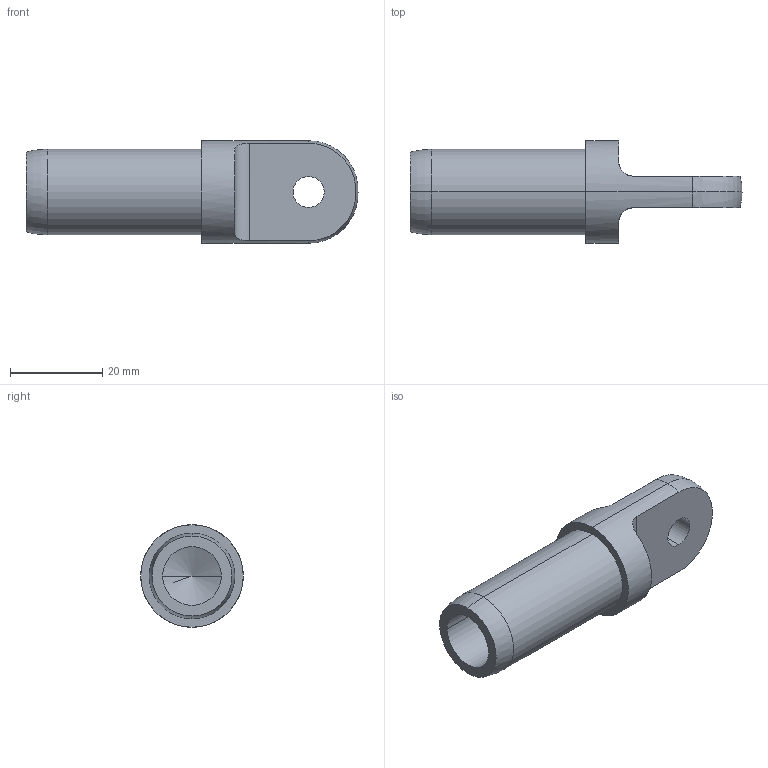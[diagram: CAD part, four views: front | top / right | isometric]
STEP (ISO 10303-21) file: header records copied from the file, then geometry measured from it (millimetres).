
FILE_DESCRIPTION (( 'STEP AP214' ), '1' );
FILE_NAME ('DRP-002-0524-00.STEP', '2013-12-20T17:33:44', ( 'ydmin' ), ( 'Microsoft' ), 'SwSTEP 2.0', 'SolidWorks 2013', '' );
FILE_SCHEMA (( 'AUTOMOTIVE_DESIGN' ));
Length unit declared in the file: inch
Products named in the file (1): DRP-002-0524-00
Bounding box: 71.97 x 22.23 x 22.23 mm (x, y, z)
Volume: 11376.1 mm3; surface area: 6402.1 mm2
Topology: 1 solids, 1 shells, 22 faces, 54 edges, 32 vertices
Faces by surface type: cylinder 10, plane 6, torus 4, cone 2
Entity records: 1102 total; most frequent: CARTESIAN_POINT 261, DIRECTION 116, ORIENTED_EDGE 100, EDGE_CURVE 50, AXIS2_PLACEMENT_3D 49, VERTEX_POINT 32, EDGE_LOOP 26, CIRCLE 26
